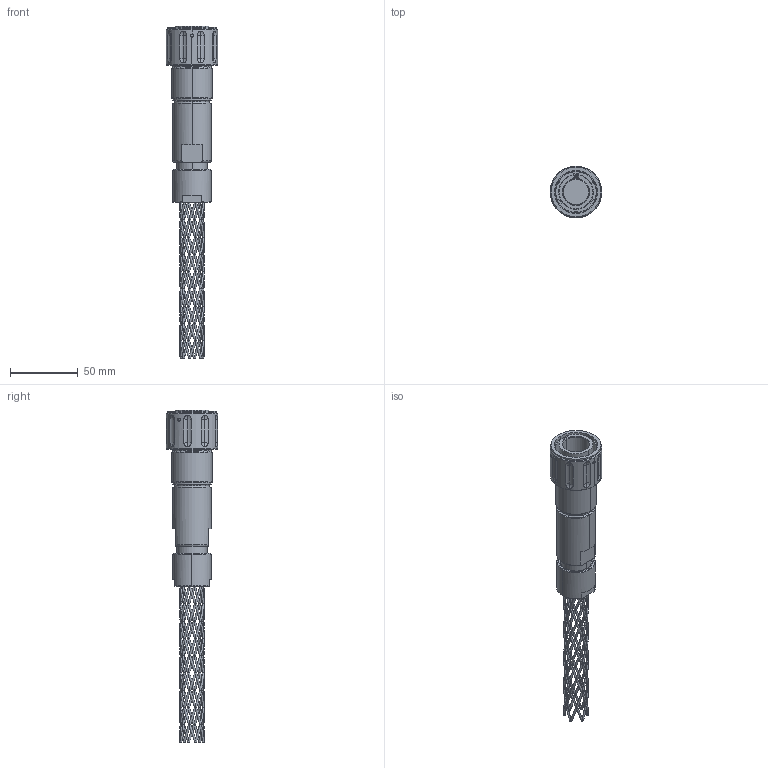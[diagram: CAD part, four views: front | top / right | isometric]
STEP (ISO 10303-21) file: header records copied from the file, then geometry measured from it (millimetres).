
FILE_DESCRIPTION (( 'STEP AP214' ), '1' );
FILE_NAME ('QLINK-PGBX-17XX-GXXX-RA.STEP', '2025-12-09T15:41:54', ( '' ), ( '' ), 'SwSTEP 2.0', 'SolidWorks 2024', '' );
FILE_SCHEMA (( 'AUTOMOTIVE_DESIGN' ));
Products named in the file (1): QLINK-PGBX-17XX-GXXX-RA
Bounding box: 37.97 x 37.97 x 244.36 mm (x, y, z)
Volume: 89011.7 mm3; surface area: 27631.6 mm2
Topology: 5 solids, 5 shells, 474 faces, 1255 edges, 707 vertices
Faces by surface type: bspline 221, cylinder 96, plane 70, cone 39, sphere 36, torus 12
Entity records: 108303 total; most frequent: CARTESIAN_POINT 99048, ORIENTED_EDGE 2510, DIRECTION 1355, EDGE_CURVE 1255, VERTEX_POINT 707, AXIS2_PLACEMENT_3D 569, EDGE_LOOP 508, FACE_OUTER_BOUND 474
